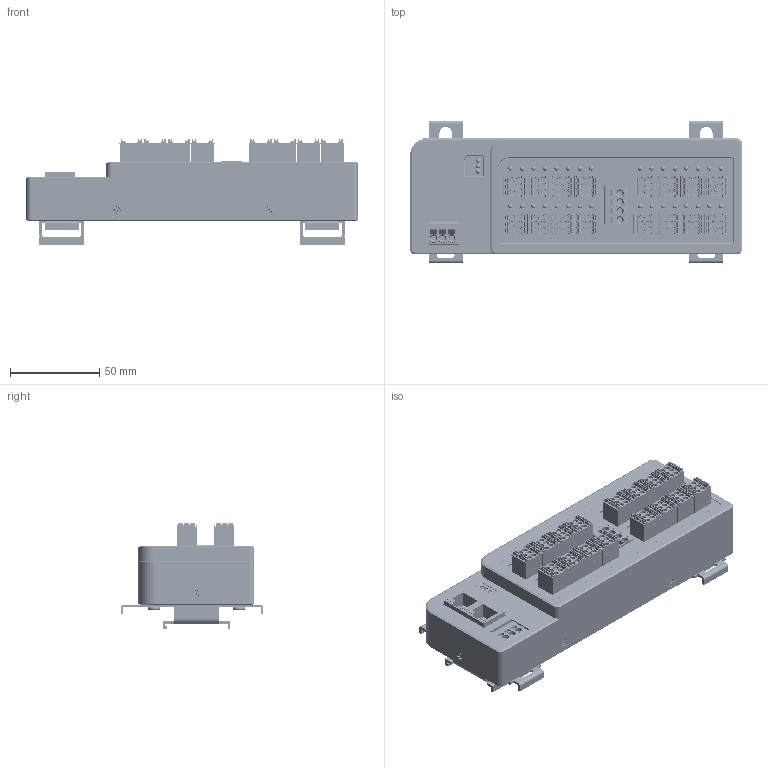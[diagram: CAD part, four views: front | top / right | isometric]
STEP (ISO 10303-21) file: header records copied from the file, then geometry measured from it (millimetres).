
FILE_DESCRIPTION((''),'2;1');
FILE_NAME('MRSHELL-32_MR5201-EA__20190214__ASM','2024-12-02T00:16:23',('huang'),('yulong DESIGN'),'CREO PARAMETRIC BY PTC INC, 2021023','CREO PARAMETRIC BY PTC INC, 2021023','');
FILE_SCHEMA(('AUTOMOTIVE_DESIGN { 1 0 10303 214 1 1 1 1 }'));
Products named in the file (20): MR5201-EA_SKEL_2_37; FRONT_COVER_MR5201_25_50; REAR_COVER_MR5201_8_37; HY951180A_4_37; FRONT_PCBA_MR5201_29_37; REAR_PCBA_COMMON_26_37; LIGHT_PIPE_11D7_PWR_2_37; LIGHT_PIPE_10_IO_1_37; MR5201-EA_ASM_20_ASM_37_ASM; MC-DPT3_5V06-BK-2000_44; MC-DRT3_5H06P-A-BK-0001_38; M-ALL_ASM_42_ASM; DINKLE_0177-5304_1; DINKLE_0177-5303_1; DIN35_LATCH_L80_4_1_1; DIN35_LATCH_L80_4_2_1; DIN35_LATCH_L80_4_ASM_1_ASM; SCREW_PH_M4X6_3_1; SCREW_FLAT_M3X8_6_1; MRSHELL-32_MR5201-EA__20190214__ASM
Assembly tree (71 placements, depth 3):
  MRSHELL-32_MR5201-EA__20190214__ASM
    MR5201-EA_ASM_20_ASM_37_ASM
      MR5201-EA_SKEL_2_37
      FRONT_COVER_MR5201_25_50
      REAR_COVER_MR5201_8_37
      HY951180A_4_37  x2
      FRONT_PCBA_MR5201_29_37
      REAR_PCBA_COMMON_26_37
      LIGHT_PIPE_11D7_PWR_2_37  x3
      LIGHT_PIPE_10_IO_1_37  x32
    M-ALL_ASM_42_ASM  x4
      MC-DPT3_5V06-BK-2000_44
      MC-DRT3_5H06P-A-BK-0001_38
    DINKLE_0177-5304_1
    DINKLE_0177-5303_1
    DIN35_LATCH_L80_4_ASM_1_ASM  x2
      DIN35_LATCH_L80_4_1_1
      DIN35_LATCH_L80_4_2_1
    SCREW_PH_M4X6_3_1  x4
    SCREW_FLAT_M3X8_6_1  x6
Bounding box: 186 x 80 x 58.93 mm (x, y, z)
Volume: 186647.4 mm3; surface area: 188032.6 mm2
Topology: 89 solids, 207 shells, 16246 faces, 46400 edges, 31225 vertices
Faces by surface type: plane 9153, cylinder 5034, torus 793, extrusion 512, cone 433, bspline 232, sphere 81, revolution 8
Entity records: 137121 total; most frequent: CARTESIAN_POINT 35495, ORIENTED_EDGE 16887, DIRECTION 15922, EDGE_CURVE 9318, VERTEX_POINT 6698, AXIS2_PLACEMENT_3D 5339, VECTOR 5242, LINE 5210
